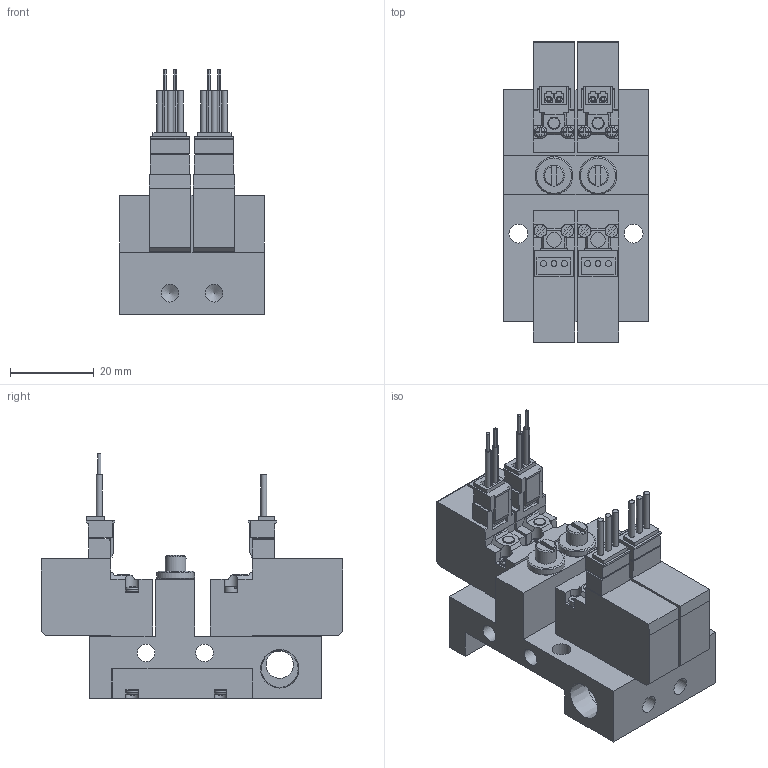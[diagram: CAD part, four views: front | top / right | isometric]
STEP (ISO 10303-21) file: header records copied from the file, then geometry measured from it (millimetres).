
FILE_DESCRIPTION(('STEP AP203'),'1');
FILE_NAME('1-L-4EZ-M02.stp','2025-05-09T01:11:46',(' '),(' '),'Spatial InterOp 3D',' ',' ');
FILE_SCHEMA(('CONFIG_CONTROL_DESIGN'));
Length unit declared in the file: millimetre
Products named in the file (24): PV1※1-L-4EZ-M02; BODY; PLATE; NEEDLE; BOLT; SOLENOID VALVE VOLTAGE PV; 42; 45; 48; 51; SOLENOID VALVE PV101-W
Assembly tree (23 placements, depth 3):
  PV1※1-L-4EZ-M02
    BODY
    PLATE
    PLATE
    NEEDLE
    NEEDLE
    BOLT
    BOLT
    BOLT
    BOLT
    BOLT
    BOLT
    SOLENOID VALVE VOLTAGE PV
      42
      45
      48
      51
    SOLENOID VALVE VOLTAGE PV
      42
      45
      48
      51
    SOLENOID VALVE PV101-W
    SOLENOID VALVE PV101-W
Bounding box: 34.5 x 71.8 x 58.25 mm (x, y, z)
Volume: 47266.4 mm3; surface area: 24512.5 mm2
Topology: 21 solids, 21 shells, 797 faces, 2220 edges, 1513 vertices
Faces by surface type: plane 590, cylinder 141, torus 32, bspline 20, cone 14
Full cylindrical faces by diameter (mm): 1.4 x6, 2 x6, 3 x10, 3.5 x2, 4.2 x6, 4.5 x2, 5 x2, 6.5 x1, 8.797 x2, 9 x2
Entity records: 26656 total; most frequent: CARTESIAN_POINT 4831, DIRECTION 4312, ORIENTED_EDGE 4248, EDGE_CURVE 2124, VERTEX_POINT 1480, LINE 1446, VECTOR 1446, AXIS2_PLACEMENT_3D 1433
